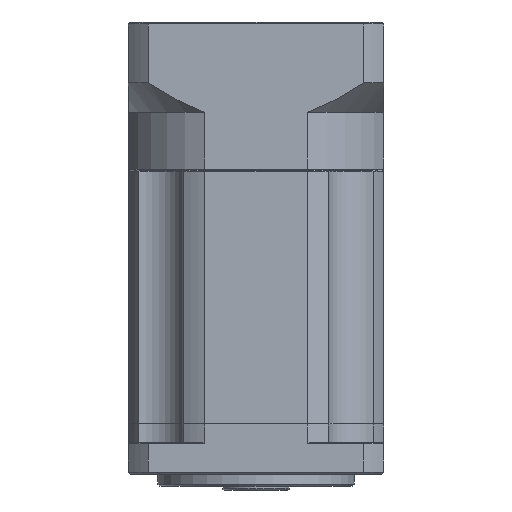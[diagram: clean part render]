
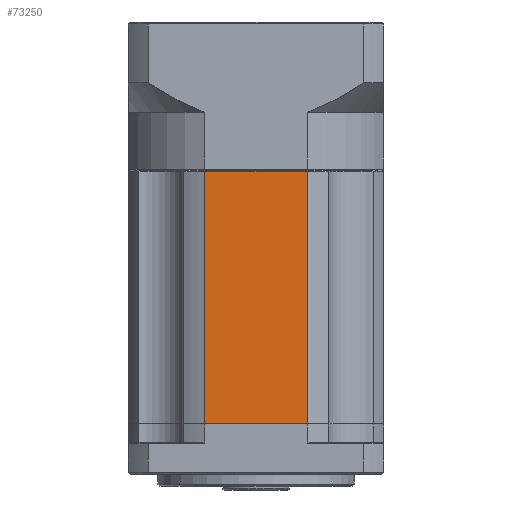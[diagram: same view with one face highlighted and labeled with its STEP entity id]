
A CAD part, front view. The second image highlights one B-rep face of the part: STEP entity #73250.
In plain terms, the highlighted planar face has unit normal (0, -1, 0).
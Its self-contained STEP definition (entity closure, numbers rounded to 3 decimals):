
#1348 = VERTEX_POINT ( 'NONE', #16106 ) ;
#3340 = DIRECTION ( 'NONE',  ( 0., 1., 0. ) ) ;
#3744 = DIRECTION ( 'NONE',  ( 0., 0., -1. ) ) ;
#10875 = PLANE ( 'NONE',  #91501 ) ;
#12265 = CARTESIAN_POINT ( 'NONE',  ( 17.174, -27.975, 45.903 ) ) ;
#13958 = ORIENTED_EDGE ( 'NONE', *, *, #86523, .F. ) ;
#16106 = CARTESIAN_POINT ( 'NONE',  ( 17.174, -27.975, -18.197 ) ) ;
#16231 = VERTEX_POINT ( 'NONE', #21335 ) ;
#18128 = CARTESIAN_POINT ( 'NONE',  ( 17.174, -27.975, 45.903 ) ) ;
#21335 = CARTESIAN_POINT ( 'NONE',  ( 43.155, -27.975, 45.903 ) ) ;
#25461 = ORIENTED_EDGE ( 'NONE', *, *, #62880, .T. ) ;
#29317 = VERTEX_POINT ( 'NONE', #33800 ) ;
#32906 = LINE ( 'NONE', #34705, #53646 ) ;
#33748 = VECTOR ( 'NONE', #3744, 1000. ) ;
#33800 = CARTESIAN_POINT ( 'NONE',  ( 43.155, -27.975, -18.197 ) ) ;
#34705 = CARTESIAN_POINT ( 'NONE',  ( 43.155, -27.975, -18.197 ) ) ;
#35354 = ORIENTED_EDGE ( 'NONE', *, *, #82467, .T. ) ;
#38763 = ORIENTED_EDGE ( 'NONE', *, *, #91522, .T. ) ;
#40251 = DIRECTION ( 'NONE',  ( 0., 0., -1. ) ) ;
#42448 = LINE ( 'NONE', #71524, #83667 ) ;
#48117 = LINE ( 'NONE', #18128, #66370 ) ;
#50085 = CARTESIAN_POINT ( 'NONE',  ( 43.155, -27.975, 46.103 ) ) ;
#53646 = VECTOR ( 'NONE', #81243, 1000. ) ;
#57973 = DIRECTION ( 'NONE',  ( 0., 0., 1. ) ) ;
#62880 = EDGE_CURVE ( 'NONE', #1348, #29317, #32906, .T. ) ;
#66202 = VERTEX_POINT ( 'NONE', #12265 ) ;
#66370 = VECTOR ( 'NONE', #72551, 1000. ) ;
#71524 = CARTESIAN_POINT ( 'NONE',  ( 17.174, -27.975, 46.103 ) ) ;
#72551 = DIRECTION ( 'NONE',  ( -1., 0., 0. ) ) ;
#73250 = ADVANCED_FACE ( 'NONE', ( #94637 ), #10875, .F. ) ;
#77497 = LINE ( 'NONE', #78513, #33748 ) ;
#78513 = CARTESIAN_POINT ( 'NONE',  ( 43.155, -27.975, 46.103 ) ) ;
#78557 = EDGE_LOOP ( 'NONE', ( #13958, #38763, #35354, #25461 ) ) ;
#81243 = DIRECTION ( 'NONE',  ( 1., 0., 0. ) ) ;
#82467 = EDGE_CURVE ( 'NONE', #66202, #1348, #42448, .T. ) ;
#83667 = VECTOR ( 'NONE', #40251, 1000. ) ;
#86523 = EDGE_CURVE ( 'NONE', #16231, #29317, #77497, .T. ) ;
#91501 = AXIS2_PLACEMENT_3D ( 'NONE', #50085, #3340, #57973 ) ;
#91522 = EDGE_CURVE ( 'NONE', #16231, #66202, #48117, .T. ) ;
#94637 = FACE_OUTER_BOUND ( 'NONE', #78557, .T. ) ;
